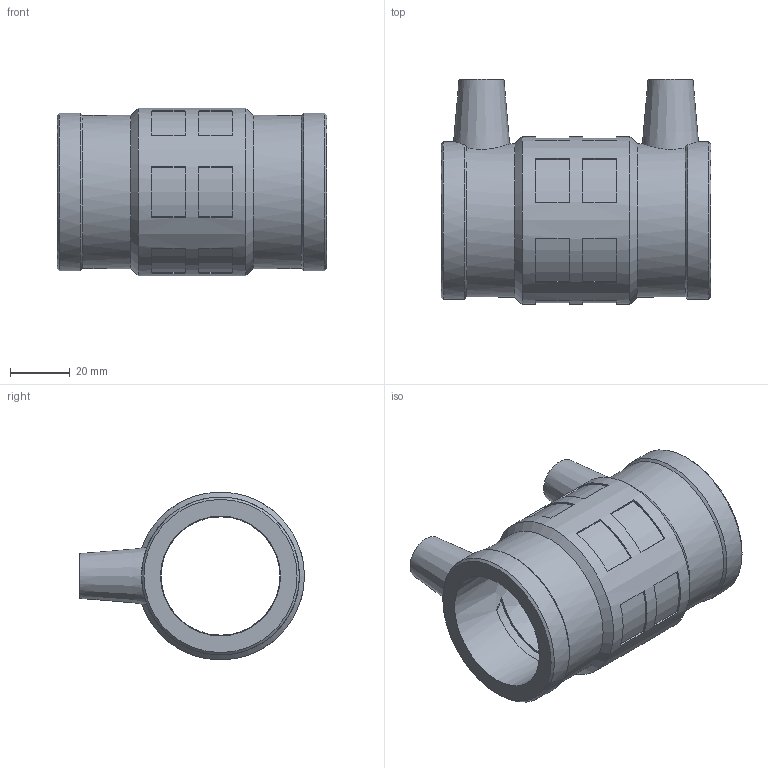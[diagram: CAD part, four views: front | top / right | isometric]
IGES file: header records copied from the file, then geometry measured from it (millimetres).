
Global section: file name: 460104040.ipt; native system: Autodesk Inventor 2015; preprocessor: unknown; author: KIM; date: 20171106.093409; units: millimetre
Bounding box: 90 x 75 x 56 mm (x, y, z)
Volume: 95591.8 mm3; surface area: 32447.4 mm2
Topology: 1 solids, 1 shells, 98 faces, 240 edges, 160 vertices
Faces by surface type: plane 60, cylinder 19, cone 12, revolution 7
Full cylindrical faces by diameter (mm): 4 x2, 51.061 x2, 52.64 x2, 56 x1
